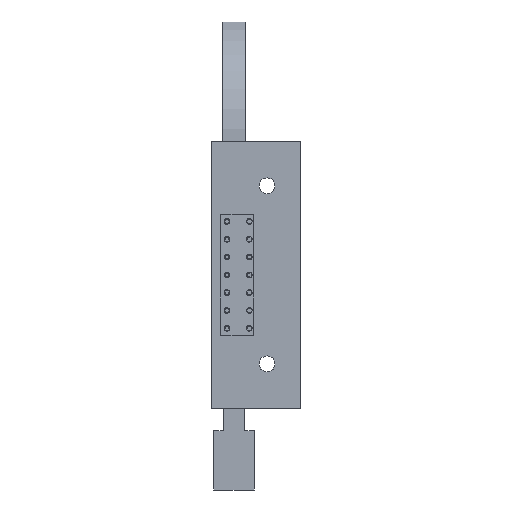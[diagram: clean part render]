
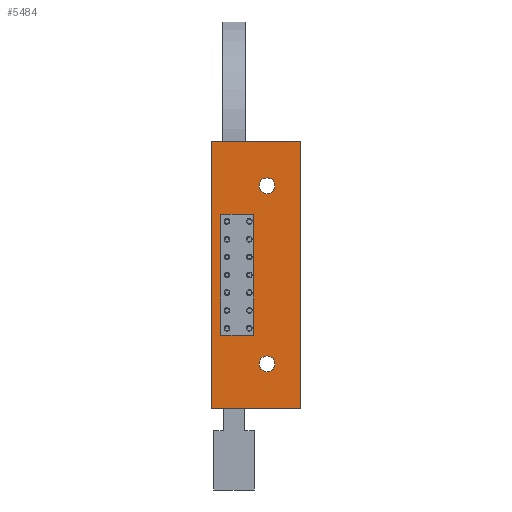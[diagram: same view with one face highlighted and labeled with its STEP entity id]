
A CAD part, front view. The second image highlights one B-rep face of the part: STEP entity #5484.
In plain terms, the highlighted planar face has unit normal (0, -1, 0).
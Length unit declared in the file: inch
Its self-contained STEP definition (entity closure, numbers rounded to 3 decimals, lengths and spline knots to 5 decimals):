
#35 = CARTESIAN_POINT ( 'NONE',  ( 0.5, -0.25, -0.75 ) ) ;
#56 = DIRECTION ( 'NONE',  ( 0., 0., -1. ) ) ;
#327 = LINE ( 'NONE', #9183, #4358 ) ;
#358 = DIRECTION ( 'NONE',  ( 1., 0., 0. ) ) ;
#373 = DIRECTION ( 'NONE',  ( 0., 0., -1. ) ) ;
#548 = CARTESIAN_POINT ( 'NONE',  ( 0.5, -0.25, 0.75 ) ) ;
#827 = CARTESIAN_POINT ( 'NONE',  ( 1., -0.25, -0.75 ) ) ;
#1050 = CARTESIAN_POINT ( 'NONE',  ( 0.736, -0.25, -0.339 ) ) ;
#1462 = DIRECTION ( 'NONE',  ( -1., 0., 0. ) ) ;
#2022 = DIRECTION ( 'NONE',  ( 0., 0., 1. ) ) ;
#2109 = DIRECTION ( 'NONE',  ( 0., 1., 0. ) ) ;
#2208 = CARTESIAN_POINT ( 'NONE',  ( 0.5, -0.25, -0.75 ) ) ;
#2558 = DIRECTION ( 'NONE',  ( 0., 0., -1. ) ) ;
#2637 = CARTESIAN_POINT ( 'NONE',  ( 0.736, -0.25, 0.339 ) ) ;
#3430 = FACE_OUTER_BOUND ( 'NONE', #6037, .T. ) ;
#3505 = DIRECTION ( 'NONE',  ( 1., 0., 0. ) ) ;
#3554 = CARTESIAN_POINT ( 'NONE',  ( 0.736, -0.25, 0.339 ) ) ;
#3787 = EDGE_CURVE ( 'NONE', #13603, #13603, #12184, .T. ) ;
#3811 = EDGE_CURVE ( 'NONE', #8212, #8212, #8039, .T. ) ;
#3867 = EDGE_CURVE ( 'NONE', #7118, #7042, #11545, .T. ) ;
#3907 = EDGE_CURVE ( 'NONE', #7042, #6916, #10871, .T. ) ;
#3947 = EDGE_CURVE ( 'NONE', #6916, #7272, #9381, .T. ) ;
#4015 = EDGE_CURVE ( 'NONE', #7272, #7118, #7993, .T. ) ;
#4041 = EDGE_CURVE ( 'NONE', #6515, #7396, #6998, .T. ) ;
#4046 = EDGE_CURVE ( 'NONE', #7669, #6515, #4759, .T. ) ;
#4072 = EDGE_CURVE ( 'NONE', #7669, #7790, #6594, .T. ) ;
#4116 = EDGE_CURVE ( 'NONE', #7790, #7396, #327, .T. ) ;
#4315 = DIRECTION ( 'NONE',  ( 0., 0., 1. ) ) ;
#4358 = VECTOR ( 'NONE', #6757, 39.37008 ) ;
#4417 = CARTESIAN_POINT ( 'NONE',  ( 0.552, -0.25, 0.339 ) ) ;
#4722 = FACE_BOUND ( 'NONE', #5744, .T. ) ;
#4759 = LINE ( 'NONE', #548, #6883 ) ;
#4874 = DIRECTION ( 'NONE',  ( 0., 0., 1. ) ) ;
#4888 = DIRECTION ( 'NONE',  ( 0., -1., 0. ) ) ;
#4931 = CARTESIAN_POINT ( 'NONE',  ( 0.812, -0.25, -0.5 ) ) ;
#5145 = DIRECTION ( 'NONE',  ( 0., 0., 1. ) ) ;
#5182 = DIRECTION ( 'NONE',  ( 0., -1., 0. ) ) ;
#5199 = CARTESIAN_POINT ( 'NONE',  ( 0.812, -0.25, 0.5 ) ) ;
#5484 = ADVANCED_FACE ( 'NONE', ( #9220, #6549, #4722, #3430 ), #6929, .F. ) ;
#5591 = CARTESIAN_POINT ( 'NONE',  ( 0.812, -0.25, 0.5445 ) ) ;
#5744 = EDGE_LOOP ( 'NONE', ( #6729 ) ) ;
#5791 = EDGE_LOOP ( 'NONE', ( #6088, #6195, #6383, #6395 ) ) ;
#5935 = AXIS2_PLACEMENT_3D ( 'NONE', #5199, #5182, #5145 ) ;
#5958 = EDGE_LOOP ( 'NONE', ( #6431 ) ) ;
#6037 = EDGE_LOOP ( 'NONE', ( #6775, #6791, #6957, #7000 ) ) ;
#6088 = ORIENTED_EDGE ( 'NONE', *, *, #4015, .T. ) ;
#6195 = ORIENTED_EDGE ( 'NONE', *, *, #3867, .T. ) ;
#6383 = ORIENTED_EDGE ( 'NONE', *, *, #3907, .T. ) ;
#6395 = ORIENTED_EDGE ( 'NONE', *, *, #3947, .T. ) ;
#6431 = ORIENTED_EDGE ( 'NONE', *, *, #3811, .F. ) ;
#6488 = CARTESIAN_POINT ( 'NONE',  ( 0.552, -0.25, 0.339 ) ) ;
#6515 = VERTEX_POINT ( 'NONE', #12471 ) ;
#6549 = FACE_BOUND ( 'NONE', #5958, .T. ) ;
#6594 = LINE ( 'NONE', #35, #14008 ) ;
#6729 = ORIENTED_EDGE ( 'NONE', *, *, #3787, .F. ) ;
#6757 = DIRECTION ( 'NONE',  ( 1., 0., 0. ) ) ;
#6760 = CARTESIAN_POINT ( 'NONE',  ( 0.812, -0.25, -0.4555 ) ) ;
#6775 = ORIENTED_EDGE ( 'NONE', *, *, #4041, .F. ) ;
#6791 = ORIENTED_EDGE ( 'NONE', *, *, #4046, .F. ) ;
#6883 = VECTOR ( 'NONE', #358, 39.37008 ) ;
#6916 = VERTEX_POINT ( 'NONE', #9943 ) ;
#6924 = VECTOR ( 'NONE', #373, 39.37008 ) ;
#6929 = PLANE ( 'NONE',  #9489 ) ;
#6957 = ORIENTED_EDGE ( 'NONE', *, *, #4072, .T. ) ;
#6998 = LINE ( 'NONE', #827, #6924 ) ;
#7000 = ORIENTED_EDGE ( 'NONE', *, *, #4116, .T. ) ;
#7042 = VERTEX_POINT ( 'NONE', #6488 ) ;
#7118 = VERTEX_POINT ( 'NONE', #9832 ) ;
#7272 = VERTEX_POINT ( 'NONE', #10821 ) ;
#7396 = VERTEX_POINT ( 'NONE', #14069 ) ;
#7520 = VECTOR ( 'NONE', #1462, 39.37008 ) ;
#7669 = VERTEX_POINT ( 'NONE', #13235 ) ;
#7790 = VERTEX_POINT ( 'NONE', #11216 ) ;
#7993 = LINE ( 'NONE', #1050, #7520 ) ;
#8039 = CIRCLE ( 'NONE', #10469, 0.0445 ) ;
#8212 = VERTEX_POINT ( 'NONE', #6760 ) ;
#9027 = VECTOR ( 'NONE', #3505, 39.37008 ) ;
#9183 = CARTESIAN_POINT ( 'NONE',  ( 0.5, -0.25, -0.75 ) ) ;
#9216 = VECTOR ( 'NONE', #2558, 39.37008 ) ;
#9220 = FACE_BOUND ( 'NONE', #5791, .T. ) ;
#9381 = LINE ( 'NONE', #2637, #9216 ) ;
#9489 = AXIS2_PLACEMENT_3D ( 'NONE', #2208, #2109, #2022 ) ;
#9832 = CARTESIAN_POINT ( 'NONE',  ( 0.552, -0.25, -0.339 ) ) ;
#9943 = CARTESIAN_POINT ( 'NONE',  ( 0.736, -0.25, 0.339 ) ) ;
#10469 = AXIS2_PLACEMENT_3D ( 'NONE', #4931, #4888, #4874 ) ;
#10821 = CARTESIAN_POINT ( 'NONE',  ( 0.736, -0.25, -0.339 ) ) ;
#10871 = LINE ( 'NONE', #3554, #9027 ) ;
#11216 = CARTESIAN_POINT ( 'NONE',  ( 0.5, -0.25, -0.75 ) ) ;
#11465 = VECTOR ( 'NONE', #4315, 39.37008 ) ;
#11545 = LINE ( 'NONE', #4417, #11465 ) ;
#12184 = CIRCLE ( 'NONE', #5935, 0.0445 ) ;
#12471 = CARTESIAN_POINT ( 'NONE',  ( 1., -0.25, 0.75 ) ) ;
#13235 = CARTESIAN_POINT ( 'NONE',  ( 0.5, -0.25, 0.75 ) ) ;
#13603 = VERTEX_POINT ( 'NONE', #5591 ) ;
#14008 = VECTOR ( 'NONE', #56, 39.37008 ) ;
#14069 = CARTESIAN_POINT ( 'NONE',  ( 1., -0.25, -0.75 ) ) ;
